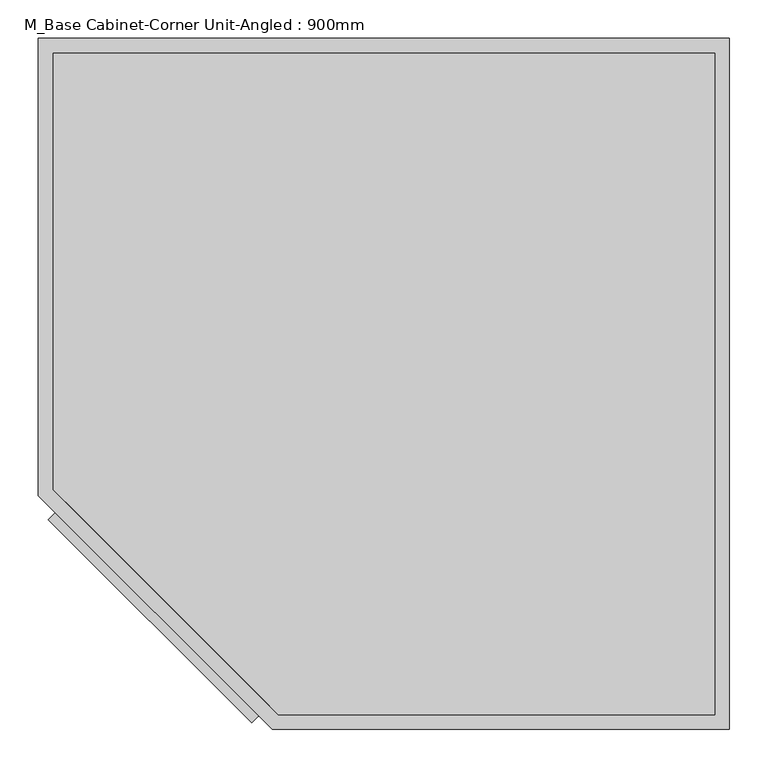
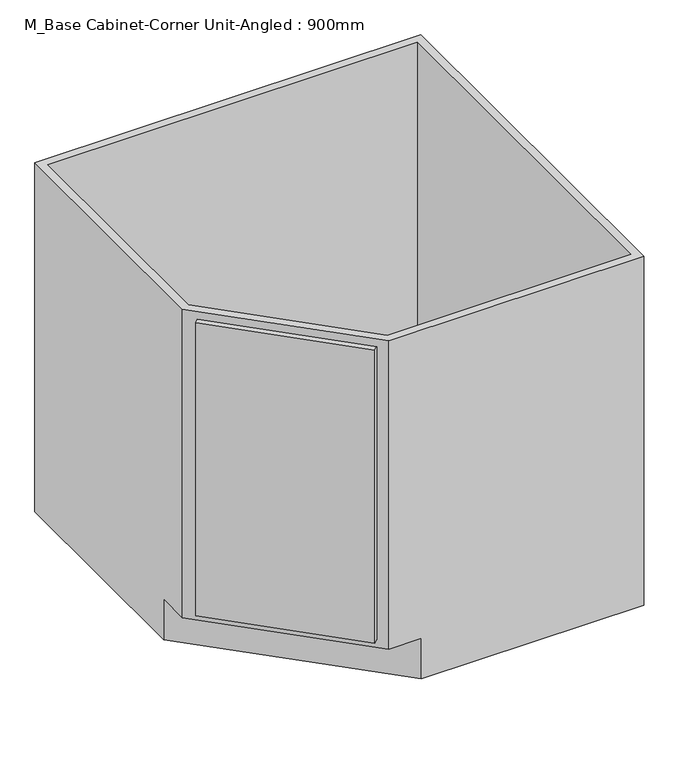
"""IFC4 building model written with IfcOpenShell, lengths in millimetres: furniture geometry, M_Base Cabinet-Corner Unit-Angled : 900mm."""

from ifc_helpers import new_model, si_unit, frame, origin, place, context, project, spatial, polyline, outline, extrude, faceted_brep, source, transform, mapped, element, save


def m_base_cabinet_corner_unit_angled_900mm_0daa8f47(model_context):
    return source(origin(), model_context, "Body", "SolidModel", [
        extrude(outline(polyline([(-109.5319116, -891.3284105), (-374.7303593, -626.6922321), (-352.3035566, -604.2177794), (-87.105109, -868.8539578), (-109.5319116, -891.3284105)])), frame((0.0, 0.0, 119.05), z_axis=(0.0, 0.0, 1.0), x_axis=(1.0, 0.0, 0.0)), (0.0, 0.0, 1.0), 721.9),
        faceted_brep([(512.3377049, 0.0, 860.0), (-387.6622951, 0.0, 860.0), (-387.6622951, -595.8462317, 860.0), (-82.8622951, -900.0, 860.0), (512.3377049, -900.0, 860.0), (-368.6122951, -587.9436184, 860.0), (-368.6122951, -19.05, 860.0), (493.2877049, -19.05, 860.0), (493.2877049, -880.95, 860.0), (-74.9833665, -880.95, 860.0), (-6.6622951, -900.0, 100.0), (-82.8622951, -900.0, 100.0), (-387.6622951, -595.8462317, 100.0), (-387.6622951, -519.6223805, 100.0), (-368.6122951, -538.6412615, 100.0), (-368.6122951, -587.9436184, 100.0), (-74.9833665, -880.95, 100.0), (-25.743465, -880.95, 100.0), (512.3377049, 0.0, 0.0), (-387.6622951, 0.0, 0.0), (-387.6622951, -519.6223805, 0.0), (-368.6122951, -19.05, 100.0), (493.2877049, -19.05, 100.0), (493.2877049, -880.95, 100.0), (-6.6622951, -900.0, 0.0), (512.3377049, -900.0, 0.0), (-87.105109, -868.8539578, 119.05), (-100.5611906, -882.3386294, 119.05), (-100.5611906, -882.3386294, 840.95), (-87.105109, -868.8539578, 840.95), (-352.3035566, -604.2177794, 119.05), (-365.7596382, -617.702451, 119.05), (-352.3035566, -604.2177794, 840.95), (-365.7596382, -617.702451, 840.95)], [[[0, 1, 2, 3, 4], [5, 6, 7, 8, 9]], [[10, 11, 12, 13, 14, 15, 16, 17]], [[1, 0, 18, 19]], [[2, 1, 19, 20, 13, 12]], [[6, 5, 15, 14, 21]], [[7, 6, 21, 22]], [[8, 7, 22, 23]], [[9, 8, 23, 17, 16]], [[4, 3, 11, 10, 24, 25]], [[0, 4, 25, 18]], [[26, 27, 28, 29]], [[27, 26, 30, 31]], [[31, 30, 32, 33]], [[29, 28, 33, 32]], [[14, 17, 23, 22, 21]], [[18, 25, 24, 20, 19]], [[20, 24, 10, 17, 14, 13]], [[3, 2, 12, 11], [28, 27, 31, 33]], [[5, 9, 16, 15], [26, 29, 32, 30]]]),
        extrude(outline(polyline([(493.2877049, -19.05), (493.2877049, -880.95), (-74.9833665, -880.95), (-368.6122951, -587.9436184), (-368.6122951, -19.05), (493.2877049, -19.05)])), frame((0.0, 0.0, 100.0), z_axis=(0.0, 0.0, 1.0), x_axis=(1.0, 0.0, 0.0)), (0.0, 0.0, 1.0), 19.05),
    ])


if __name__ == "__main__":
    model = new_model("IFC4")
    model_context = context("Model", 3, world=origin())
    ifc_project = project(units=[si_unit("LENGTHUNIT", "METRE", prefix="MILLI")], contexts=[model_context])
    site = spatial("IfcSite", under=ifc_project)
    building = spatial("IfcBuilding", under=site)
    placement = place(None, origin())
    m_base_cabinet_corner_unit_angled_900mm_shape = m_base_cabinet_corner_unit_angled_900mm_0daa8f47(model_context)
    element("IfcFurniture", 1, ObjectType="M_Base Cabinet-Corner Unit-Angled : 900mm", at=placement, inside=building, context=model_context, shape_type="MappedRepresentation", body=[
        mapped(m_base_cabinet_corner_unit_angled_900mm_shape, transform((0.0, 0.0, 0.0), x_axis=(1.0, 0.0, 0.0), y_axis=(0.0, 1.0, 0.0), z_axis=(0.0, 0.0, 1.0))),
    ])
    save(model, "model.ifc")
